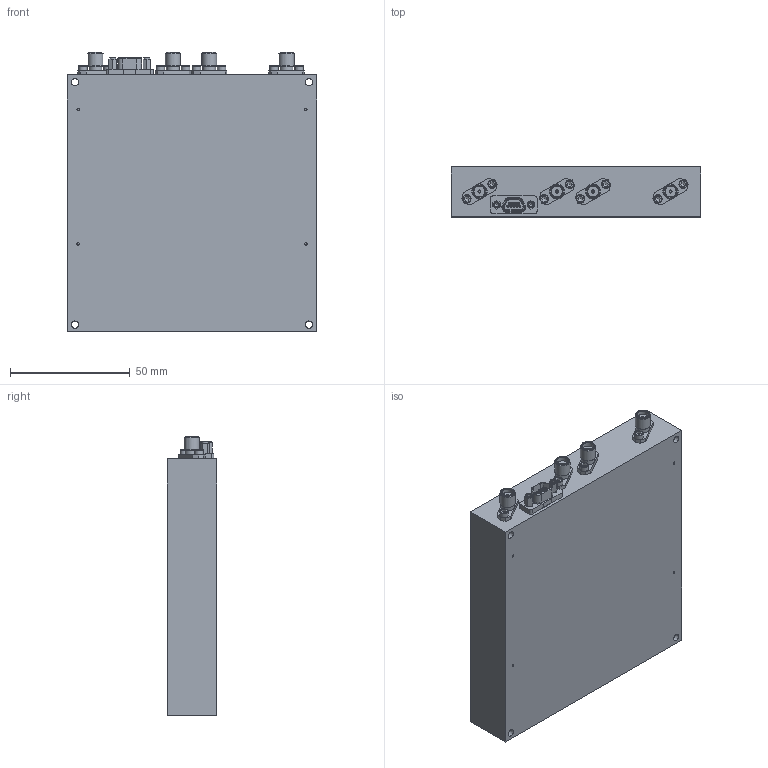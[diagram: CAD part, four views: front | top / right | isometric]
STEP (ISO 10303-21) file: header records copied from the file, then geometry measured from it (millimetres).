
FILE_DESCRIPTION((''),'2;1');
FILE_NAME('\\SERPENTOR\Engineering\ENG\Models\TTRMxxxx\TTRM1078D\Inventor\TTRM1078D\OL_132.stp','2015-06-04T14:32:17',('dcampbell'),(''),'Autodesk Inventor 2013','Autodesk Inventor 2013','');
FILE_SCHEMA(('AUTOMOTIVE_DESIGN { 1 0 10303 214 1 1 1 1 }'));
Length unit declared in the file: inch
Products named in the file (6): OL_132; M7-320-9505-033; 9 pin Micro D; 410-003; Hexagon Socket Head Cap Screw - Inch No. 2 - 56 UNC - 3/16
Assembly tree (16 placements, depth 2):
  OL_132
    OL_132
    M7-320-9505-033  x2
    9 pin Micro D
    410-003  x4
    Hexagon Socket Head Cap Screw - Inch No. 2 - 56 UNC - 3/16  x8
Bounding box: 104.14 x 20.78 x 116.87 mm (x, y, z)
Volume: 233820.4 mm3; surface area: 35878.2 mm2
Topology: 16 solids, 16 shells, 480 faces, 1002 edges, 647 vertices
Faces by surface type: plane 249, cylinder 150, torus 43, cone 30, bspline 8
Full cylindrical faces by diameter (mm): 0.254 x4, 0.508 x18, 0.635 x9, 0.737 x4, 0.762 x9, 1.016 x14, 1.245 x4, 1.295 x4, 1.702 x2, 2.159 x4, 2.184 x10, 2.54 x4, 2.591 x8, 3.048 x4, 3.556 x8, 4.597 x4, 5.486 x8, 6.35 x4
Entity records: 7359 total; most frequent: CARTESIAN_POINT 1680, DIRECTION 1194, ORIENTED_EDGE 832, AXIS2_PLACEMENT_3D 508, EDGE_LOOP 442, EDGE_CURVE 416, VERTEX_POINT 328, FACE_OUTER_BOUND 262
